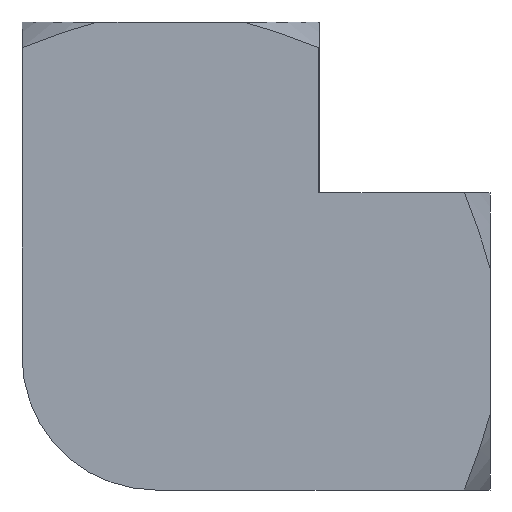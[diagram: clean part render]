
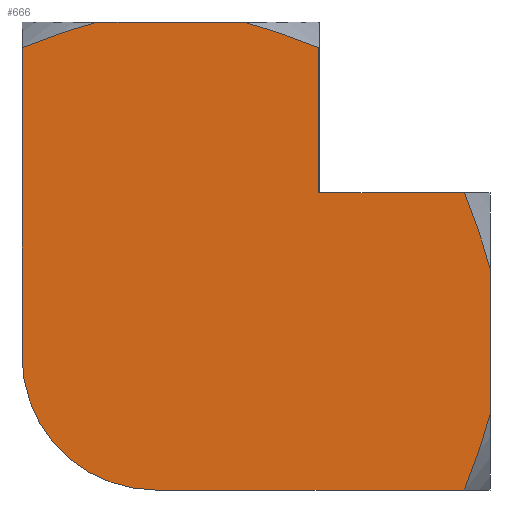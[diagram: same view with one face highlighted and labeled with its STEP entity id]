
A CAD part, front view. The second image highlights one B-rep face of the part: STEP entity #666.
In plain terms, the highlighted planar face has unit normal (0, -1, 0).
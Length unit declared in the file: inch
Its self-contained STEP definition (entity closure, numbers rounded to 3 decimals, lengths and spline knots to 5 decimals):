
#17=(
BOUNDED_CURVE()
B_SPLINE_CURVE(2,(#1166,#1167,#1168),.UNSPECIFIED.,.F.,.F.)
B_SPLINE_CURVE_WITH_KNOTS((3,3),(0.,0.68276),.UNSPECIFIED.)
CURVE()
GEOMETRIC_REPRESENTATION_ITEM()
RATIONAL_B_SPLINE_CURVE((1.,1.021,1.))
REPRESENTATION_ITEM('')
);
#18=(
BOUNDED_CURVE()
B_SPLINE_CURVE(2,(#1170,#1171,#1172),.UNSPECIFIED.,.F.,.F.)
B_SPLINE_CURVE_WITH_KNOTS((3,3),(0.,0.68276),.UNSPECIFIED.)
CURVE()
GEOMETRIC_REPRESENTATION_ITEM()
RATIONAL_B_SPLINE_CURVE((1.,1.021,1.))
REPRESENTATION_ITEM('')
);
#19=(
BOUNDED_CURVE()
B_SPLINE_CURVE(2,(#1177,#1178,#1179),.UNSPECIFIED.,.F.,.F.)
B_SPLINE_CURVE_WITH_KNOTS((3,3),(0.,0.68401),.UNSPECIFIED.)
CURVE()
GEOMETRIC_REPRESENTATION_ITEM()
RATIONAL_B_SPLINE_CURVE((1.,1.021,1.))
REPRESENTATION_ITEM('')
);
#20=(
BOUNDED_CURVE()
B_SPLINE_CURVE(2,(#1181,#1182,#1183),.UNSPECIFIED.,.F.,.F.)
B_SPLINE_CURVE_WITH_KNOTS((3,3),(0.,0.68401),.UNSPECIFIED.)
CURVE()
GEOMETRIC_REPRESENTATION_ITEM()
RATIONAL_B_SPLINE_CURVE((1.,1.021,1.))
REPRESENTATION_ITEM('')
);
#52=PLANE('',#757);
#94=FACE_OUTER_BOUND('',#139,.T.);
#139=EDGE_LOOP('',(#532,#533,#534,#535,#536,#537,#538,#539,#540,#541,#542,
#543,#544));
#162=LINE('',#1017,#197);
#168=LINE('',#1048,#203);
#174=LINE('',#1146,#209);
#180=LINE('',#1165,#215);
#181=LINE('',#1174,#216);
#182=LINE('',#1176,#217);
#183=LINE('',#1185,#218);
#184=LINE('',#1186,#219);
#197=VECTOR('',#810,0.3937);
#203=VECTOR('',#840,0.3937);
#209=VECTOR('',#918,0.3937);
#215=VECTOR('',#926,0.3937);
#216=VECTOR('',#927,0.3937);
#217=VECTOR('',#928,0.3937);
#218=VECTOR('',#929,0.3937);
#219=VECTOR('',#930,0.3937);
#255=CIRCLE('',#754,0.45);
#274=VERTEX_POINT('',#1014);
#275=VERTEX_POINT('',#1016);
#287=VERTEX_POINT('',#1045);
#288=VERTEX_POINT('',#1047);
#302=VERTEX_POINT('',#1136);
#303=VERTEX_POINT('',#1137);
#306=VERTEX_POINT('',#1145);
#312=VERTEX_POINT('',#1164);
#313=VERTEX_POINT('',#1169);
#314=VERTEX_POINT('',#1173);
#315=VERTEX_POINT('',#1175);
#316=VERTEX_POINT('',#1180);
#317=VERTEX_POINT('',#1184);
#339=EDGE_CURVE('',#274,#275,#162,.T.);
#354=EDGE_CURVE('',#287,#288,#168,.T.);
#381=EDGE_CURVE('',#302,#303,#255,.T.);
#385=EDGE_CURVE('',#303,#306,#174,.T.);
#393=EDGE_CURVE('',#312,#302,#180,.T.);
#394=EDGE_CURVE('',#288,#312,#17,.T.);
#395=EDGE_CURVE('',#313,#287,#18,.T.);
#396=EDGE_CURVE('',#313,#314,#181,.T.);
#397=EDGE_CURVE('',#315,#314,#182,.T.);
#398=EDGE_CURVE('',#275,#315,#19,.T.);
#399=EDGE_CURVE('',#316,#274,#20,.T.);
#400=EDGE_CURVE('',#317,#316,#183,.T.);
#401=EDGE_CURVE('',#317,#306,#184,.T.);
#532=ORIENTED_EDGE('',*,*,#381,.F.);
#533=ORIENTED_EDGE('',*,*,#393,.F.);
#534=ORIENTED_EDGE('',*,*,#394,.F.);
#535=ORIENTED_EDGE('',*,*,#354,.F.);
#536=ORIENTED_EDGE('',*,*,#395,.F.);
#537=ORIENTED_EDGE('',*,*,#396,.T.);
#538=ORIENTED_EDGE('',*,*,#397,.F.);
#539=ORIENTED_EDGE('',*,*,#398,.F.);
#540=ORIENTED_EDGE('',*,*,#339,.F.);
#541=ORIENTED_EDGE('',*,*,#399,.F.);
#542=ORIENTED_EDGE('',*,*,#400,.F.);
#543=ORIENTED_EDGE('',*,*,#401,.T.);
#544=ORIENTED_EDGE('',*,*,#385,.F.);
#666=ADVANCED_FACE('',(#94),#52,.F.);
#754=AXIS2_PLACEMENT_3D('',#1138,#910,#911);
#757=AXIS2_PLACEMENT_3D('',#1163,#924,#925);
#810=DIRECTION('',(1.,0.,0.));
#840=DIRECTION('',(0.,0.,-1.));
#910=DIRECTION('center_axis',(0.,1.,0.));
#911=DIRECTION('ref_axis',(-0.707,0.,-0.707));
#918=DIRECTION('',(0.,0.,1.));
#924=DIRECTION('center_axis',(0.,1.,0.));
#925=DIRECTION('ref_axis',(0.,0.,-1.));
#926=DIRECTION('',(-1.,0.,0.));
#927=DIRECTION('',(-1.,0.,0.));
#928=DIRECTION('',(0.,0.,-1.));
#929=DIRECTION('',(0.,0.,1.));
#930=DIRECTION('',(-1.,0.,0.));
#1014=CARTESIAN_POINT('',(-0.24432,-0.5,1.075));
#1016=CARTESIAN_POINT('',(0.24432,-0.5,1.075));
#1017=CARTESIAN_POINT('',(-0.25,-0.5,1.075));
#1045=CARTESIAN_POINT('',(1.075,-0.5,0.2457));
#1047=CARTESIAN_POINT('',(1.075,-0.5,-0.2457));
#1048=CARTESIAN_POINT('',(1.075,-0.5,0.25));
#1136=CARTESIAN_POINT('',(-0.05,-0.5,-0.5));
#1137=CARTESIAN_POINT('',(-0.5,-0.5,-0.05));
#1138=CARTESIAN_POINT('Origin',(-0.05,-0.5,-0.05));
#1145=CARTESIAN_POINT('',(-0.5,-0.5,0.5));
#1146=CARTESIAN_POINT('',(-0.5,-0.5,0.25));
#1163=CARTESIAN_POINT('Origin',(1.075,-0.5,0.5));
#1164=CARTESIAN_POINT('',(0.9884,-0.5,-0.5));
#1165=CARTESIAN_POINT('',(0.,-0.5,-0.5));
#1166=CARTESIAN_POINT('Ctrl Pts',(1.075,-0.5,-0.2457));
#1167=CARTESIAN_POINT('Ctrl Pts',(1.04647,-0.5,-0.35776));
#1168=CARTESIAN_POINT('Ctrl Pts',(0.9884,-0.5,-0.5));
#1169=CARTESIAN_POINT('',(0.9884,-0.5,0.5));
#1170=CARTESIAN_POINT('Ctrl Pts',(0.9884,-0.5,0.5));
#1171=CARTESIAN_POINT('Ctrl Pts',(1.04647,-0.5,0.35776));
#1172=CARTESIAN_POINT('Ctrl Pts',(1.075,-0.5,0.2457));
#1173=CARTESIAN_POINT('',(0.49914,-0.5,0.5));
#1174=CARTESIAN_POINT('',(0.,-0.5,0.5));
#1175=CARTESIAN_POINT('',(0.49914,-0.5,0.9884));
#1176=CARTESIAN_POINT('',(0.49914,-0.5,0.5));
#1177=CARTESIAN_POINT('Ctrl Pts',(0.24432,-0.5,1.075));
#1178=CARTESIAN_POINT('Ctrl Pts',(0.3566,-0.5,1.04654));
#1179=CARTESIAN_POINT('Ctrl Pts',(0.49914,-0.5,0.9884));
#1180=CARTESIAN_POINT('',(-0.49914,-0.5,0.9884));
#1181=CARTESIAN_POINT('Ctrl Pts',(-0.49914,-0.5,0.9884));
#1182=CARTESIAN_POINT('Ctrl Pts',(-0.3566,-0.5,1.04654));
#1183=CARTESIAN_POINT('Ctrl Pts',(-0.24432,-0.5,1.075));
#1184=CARTESIAN_POINT('',(-0.49914,-0.5,0.5));
#1185=CARTESIAN_POINT('',(-0.49914,-0.5,0.5));
#1186=CARTESIAN_POINT('',(0.,-0.5,0.5));
